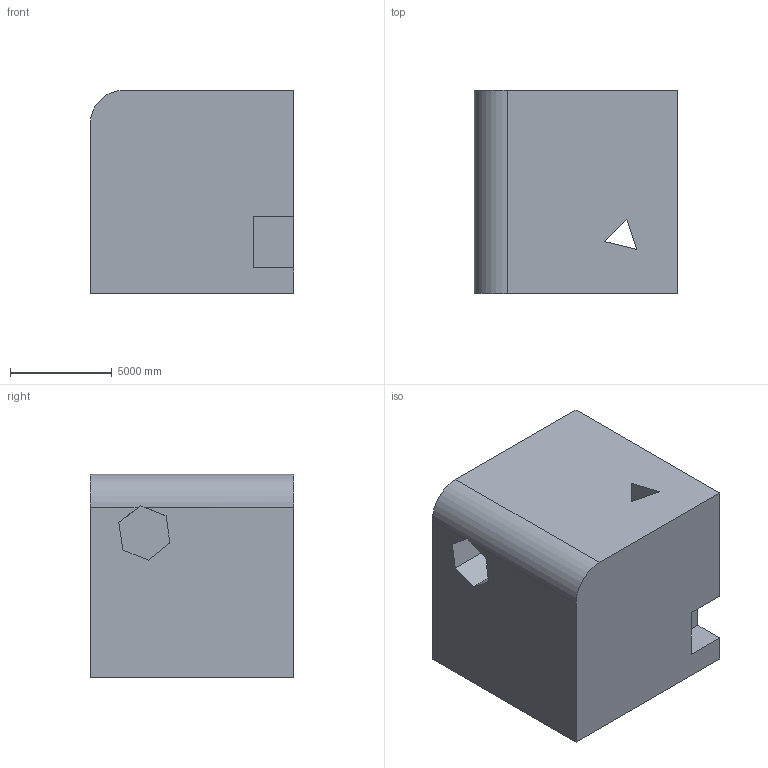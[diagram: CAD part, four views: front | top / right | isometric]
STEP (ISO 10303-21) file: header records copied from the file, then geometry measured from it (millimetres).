
FILE_DESCRIPTION (( 'STEP AP203' ), '1' );
FILE_NAME ('1400.STEP', '2022-08-18T14:15:15', ( 'user' ), ( '' ), 'SwSTEP 2.0', 'SolidWorks 2021', '' );
FILE_SCHEMA (( 'CONFIG_CONTROL_DESIGN' ));
Length unit declared in the file: centimetre
Products named in the file (1): 1400
Bounding box: 10000 x 10000 x 10000 mm (x, y, z)
Volume: 950919501960.7 mm3; surface area: 694042691.5 mm2
Topology: 1 solids, 1 shells, 25 faces, 66 edges, 44 vertices
Faces by surface type: plane 24, cylinder 1
Entity records: 843 total; most frequent: CARTESIAN_POINT 142, ORIENTED_EDGE 132, DIRECTION 118, EDGE_CURVE 66, VECTOR 62, LINE 62, VERTEX_POINT 44, EDGE_LOOP 28
